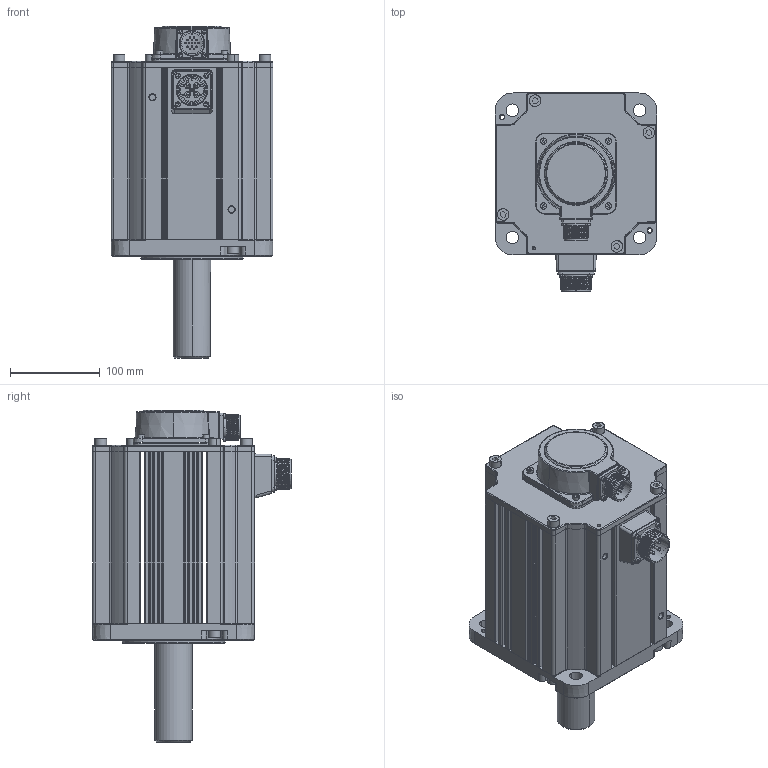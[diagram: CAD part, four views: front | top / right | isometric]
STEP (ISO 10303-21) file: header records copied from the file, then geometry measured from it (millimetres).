
FILE_DESCRIPTION (( 'STEP AP203' ), '1' );
FILE_NAME ('MS6G-180CN15B2-47P5.STEP', '2024-01-03T00:47:30', ( '' ), ( '' ), 'SwSTEP 2.0', 'SolidWorks 2022', '' );
FILE_SCHEMA (( 'CONFIG_CONTROL_DESIGN' ));
Length unit declared in the file: millimetre
Products named in the file (1): MS6G-180CN15B2-47P5
Bounding box: 180 x 220.9 x 369 mm (x, y, z)
Surface area: 306956.1 mm2 (no closed solid volume)
Topology: 0 solids, 65 shells, 1240 faces, 3796 edges, 2560 vertices
Faces by surface type: plane 410, cylinder 409, bspline 153, torus 125, cone 101, sphere 42
Entity records: 60306 total; most frequent: CARTESIAN_POINT 28125, DIRECTION 6629, ORIENTED_EDGE 6164, EDGE_CURVE 3750, VERTEX_POINT 2560, AXIS2_PLACEMENT_3D 2457, VECTOR 1715, LINE 1715
